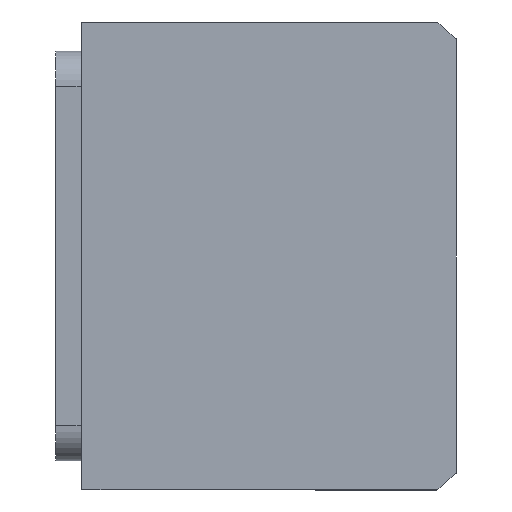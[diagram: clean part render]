
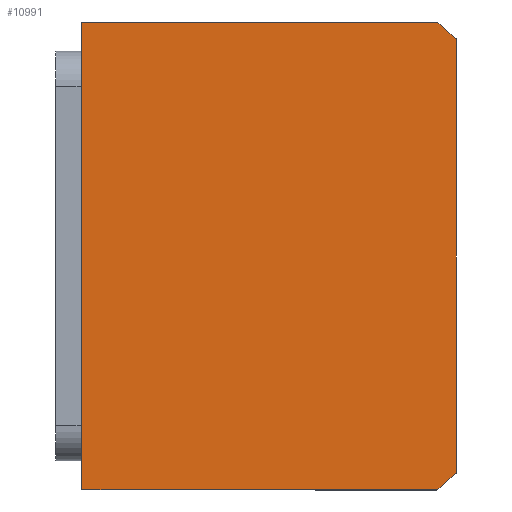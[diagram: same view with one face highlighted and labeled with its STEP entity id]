
A CAD part, front view. The second image highlights one B-rep face of the part: STEP entity #10991.
In plain terms, the highlighted planar face has unit normal (0, -1, 0) as drawn and (0, 0, -1) by its records, which use the part's own axes.
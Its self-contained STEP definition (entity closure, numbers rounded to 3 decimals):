
#181 = ORIENTED_EDGE ( 'NONE', *, *, #8867, .F. ) ;
#297 = CARTESIAN_POINT ( 'NONE',  ( 40., -11.507, 0. ) ) ;
#1183 = CIRCLE ( 'NONE', #2218, 51. ) ;
#1268 = VECTOR ( 'NONE', #1957, 1000. ) ;
#1461 = VERTEX_POINT ( 'NONE', #11106 ) ;
#1591 = LINE ( 'NONE', #11456, #1268 ) ;
#1957 = DIRECTION ( 'NONE',  ( -1., 0., 0. ) ) ;
#2218 = AXIS2_PLACEMENT_3D ( 'NONE', #9667, #3334, #10740 ) ;
#2486 = ORIENTED_EDGE ( 'NONE', *, *, #11589, .F. ) ;
#2674 = VERTEX_POINT ( 'NONE', #5207 ) ;
#2888 = VERTEX_POINT ( 'NONE', #12056 ) ;
#3190 = CARTESIAN_POINT ( 'NONE',  ( -40., -11.507, 0. ) ) ;
#3334 = DIRECTION ( 'NONE',  ( 0., 0., 1. ) ) ;
#3345 = DIRECTION ( 'NONE',  ( 1., 0., 0. ) ) ;
#3412 = DIRECTION ( 'NONE',  ( 0., 0., 1. ) ) ;
#3927 = LINE ( 'NONE', #13519, #12025 ) ;
#4033 = LINE ( 'NONE', #4523, #9314 ) ;
#4523 = CARTESIAN_POINT ( 'NONE',  ( -40., -75.507, 0. ) ) ;
#4884 = EDGE_CURVE ( 'NONE', #12336, #2674, #1591, .T. ) ;
#5191 = LINE ( 'NONE', #3190, #10488 ) ;
#5207 = CARTESIAN_POINT ( 'NONE',  ( -40., -11.507, 0. ) ) ;
#6041 = FACE_OUTER_BOUND ( 'NONE', #8614, .T. ) ;
#6890 = VERTEX_POINT ( 'NONE', #13234 ) ;
#7949 = ORIENTED_EDGE ( 'NONE', *, *, #4884, .F. ) ;
#8535 = VERTEX_POINT ( 'NONE', #12344 ) ;
#8611 = CARTESIAN_POINT ( 'NONE',  ( 0., 0., 0. ) ) ;
#8614 = EDGE_LOOP ( 'NONE', ( #8705, #2486, #7949, #11908, #181, #11520 ) ) ;
#8705 = ORIENTED_EDGE ( 'NONE', *, *, #13216, .F. ) ;
#8867 = EDGE_CURVE ( 'NONE', #8535, #1461, #13536, .T. ) ;
#9314 = VECTOR ( 'NONE', #10864, 1000. ) ;
#9667 = CARTESIAN_POINT ( 'NONE',  ( 0., -40.507, 0. ) ) ;
#9688 = DIRECTION ( 'NONE',  ( 0., 0., 1. ) ) ;
#9741 = CARTESIAN_POINT ( 'NONE',  ( 0., -40.507, 0. ) ) ;
#9783 = EDGE_CURVE ( 'NONE', #1461, #12336, #3927, .T. ) ;
#9933 = AXIS2_PLACEMENT_3D ( 'NONE', #8611, #9688, #3345 ) ;
#10261 = DIRECTION ( 'NONE',  ( 0., 1., 0. ) ) ;
#10351 = AXIS2_PLACEMENT_3D ( 'NONE', #9741, #3412, #10808 ) ;
#10488 = VECTOR ( 'NONE', #13752, 1000. ) ;
#10740 = DIRECTION ( 'NONE',  ( 1., 0., 0. ) ) ;
#10808 = DIRECTION ( 'NONE',  ( 1., 0., 0. ) ) ;
#10864 = DIRECTION ( 'NONE',  ( 1., 0., 0. ) ) ;
#10991 = ADVANCED_FACE ( 'NONE', ( #6041 ), #12732, .F. ) ;
#11106 = CARTESIAN_POINT ( 'NONE',  ( 40., -72.145, 0. ) ) ;
#11456 = CARTESIAN_POINT ( 'NONE',  ( -40., -11.507, 0. ) ) ;
#11520 = ORIENTED_EDGE ( 'NONE', *, *, #12326, .F. ) ;
#11589 = EDGE_CURVE ( 'NONE', #2674, #6890, #5191, .T. ) ;
#11908 = ORIENTED_EDGE ( 'NONE', *, *, #9783, .F. ) ;
#12025 = VECTOR ( 'NONE', #10261, 1000. ) ;
#12056 = CARTESIAN_POINT ( 'NONE',  ( -37.094, -75.507, 0. ) ) ;
#12326 = EDGE_CURVE ( 'NONE', #2888, #8535, #4033, .T. ) ;
#12336 = VERTEX_POINT ( 'NONE', #297 ) ;
#12344 = CARTESIAN_POINT ( 'NONE',  ( 37.094, -75.507, 0. ) ) ;
#12732 = PLANE ( 'NONE',  #9933 ) ;
#13216 = EDGE_CURVE ( 'NONE', #6890, #2888, #1183, .T. ) ;
#13234 = CARTESIAN_POINT ( 'NONE',  ( -40., -72.145, 0. ) ) ;
#13519 = CARTESIAN_POINT ( 'NONE',  ( 40., -11.507, 0. ) ) ;
#13536 = CIRCLE ( 'NONE', #10351, 51. ) ;
#13752 = DIRECTION ( 'NONE',  ( 0., -1., 0. ) ) ;
